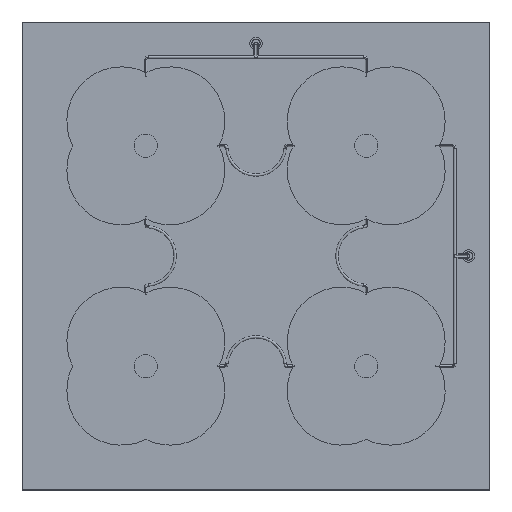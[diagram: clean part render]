
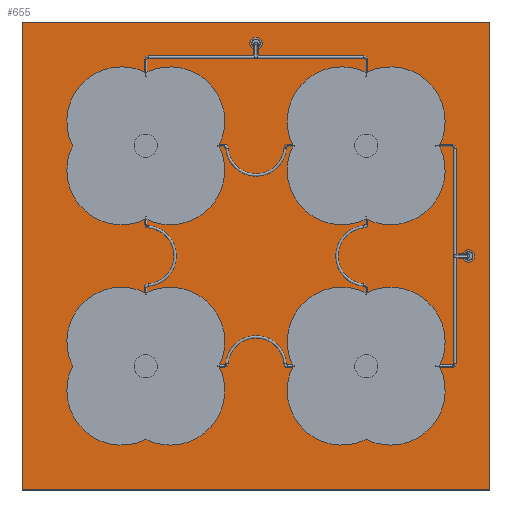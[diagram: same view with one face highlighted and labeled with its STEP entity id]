
A CAD part, top view. The second image highlights one B-rep face of the part: STEP entity #655.
In plain terms, the highlighted planar face has unit normal (0, 0, 1).
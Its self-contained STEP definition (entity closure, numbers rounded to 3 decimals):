
#655=ADVANCED_FACE('',(#1279,#1280,#1281,#1282,#1283,#1284,#1285),#1286,.T.);
#1279=FACE_BOUND('',#4151,.T.);
#1280=FACE_BOUND('',#4152,.T.);
#1281=FACE_BOUND('',#4153,.T.);
#1282=FACE_BOUND('',#4154,.T.);
#1283=FACE_BOUND('',#4155,.T.);
#1284=FACE_BOUND('',#4156,.T.);
#1285=FACE_OUTER_BOUND('',#4157,.T.);
#1286=PLANE('',#4158);
#4151=EDGE_LOOP('',(#9463,#9464));
#4152=EDGE_LOOP('',(#9465,#9466));
#4153=EDGE_LOOP('',(#9467,#9468));
#4154=EDGE_LOOP('',(#9469,#9470));
#4155=EDGE_LOOP('',(#9471,#9472));
#4156=EDGE_LOOP('',(#9473,#9474));
#4157=EDGE_LOOP('',(#9475,#9476,#9477,#9478));
#4158=AXIS2_PLACEMENT_3D('',#9479,#9480,#9481);
#9463=ORIENTED_EDGE('',*,*,#10997,.T.);
#9464=ORIENTED_EDGE('',*,*,#11154,.T.);
#9465=ORIENTED_EDGE('',*,*,#11924,.T.);
#9466=ORIENTED_EDGE('',*,*,#11925,.T.);
#9467=ORIENTED_EDGE('',*,*,#11926,.T.);
#9468=ORIENTED_EDGE('',*,*,#11927,.T.);
#9469=ORIENTED_EDGE('',*,*,#11928,.T.);
#9470=ORIENTED_EDGE('',*,*,#11929,.T.);
#9471=ORIENTED_EDGE('',*,*,#11930,.T.);
#9472=ORIENTED_EDGE('',*,*,#11931,.T.);
#9473=ORIENTED_EDGE('',*,*,#11932,.T.);
#9474=ORIENTED_EDGE('',*,*,#11174,.T.);
#9475=ORIENTED_EDGE('',*,*,#11257,.T.);
#9476=ORIENTED_EDGE('',*,*,#11933,.T.);
#9477=ORIENTED_EDGE('',*,*,#11934,.T.);
#9478=ORIENTED_EDGE('',*,*,#11702,.T.);
#9479=CARTESIAN_POINT('',(0.0,0.0,-6.0));
#9480=DIRECTION('',(0.0,0.0,1.0));
#9481=DIRECTION('',(1.0,0.0,0.0));
#10997=EDGE_CURVE('',#12326,#12323,#12327,.T.);
#11154=EDGE_CURVE('',#12323,#12326,#12618,.T.);
#11174=EDGE_CURVE('',#12652,#12649,#12653,.T.);
#11257=EDGE_CURVE('',#12802,#12807,#12809,.T.);
#11702=EDGE_CURVE('',#13625,#12802,#13629,.T.);
#11924=EDGE_CURVE('',#14025,#14026,#14027,.T.);
#11925=EDGE_CURVE('',#14026,#14025,#14028,.T.);
#11926=EDGE_CURVE('',#14029,#14030,#14031,.T.);
#11927=EDGE_CURVE('',#14030,#14029,#14032,.T.);
#11928=EDGE_CURVE('',#14033,#14034,#14035,.T.);
#11929=EDGE_CURVE('',#14034,#14033,#14036,.T.);
#11930=EDGE_CURVE('',#14037,#14038,#14039,.T.);
#11931=EDGE_CURVE('',#14038,#14037,#14040,.T.);
#11932=EDGE_CURVE('',#12649,#12652,#14041,.T.);
#11933=EDGE_CURVE('',#12807,#14042,#14043,.T.);
#11934=EDGE_CURVE('',#14042,#13625,#14044,.T.);
#12323=VERTEX_POINT('',#14606);
#12326=VERTEX_POINT('',#14610);
#12327=CIRCLE('',#14611,6.0);
#12618=CIRCLE('',#15220,6.0);
#12649=VERTEX_POINT('',#15257);
#12652=VERTEX_POINT('',#15261);
#12653=CIRCLE('',#15262,2.13);
#12802=VERTEX_POINT('',#15602);
#12807=VERTEX_POINT('',#15609);
#12809=LINE('',#15612,#15613);
#13625=VERTEX_POINT('',#17592);
#13629=LINE('',#17598,#17599);
#14025=VERTEX_POINT('',#18526);
#14026=VERTEX_POINT('',#18527);
#14027=CIRCLE('',#18528,6.0);
#14028=CIRCLE('',#18529,6.0);
#14029=VERTEX_POINT('',#18530);
#14030=VERTEX_POINT('',#18531);
#14031=CIRCLE('',#18532,6.0);
#14032=CIRCLE('',#18533,6.0);
#14033=VERTEX_POINT('',#18534);
#14034=VERTEX_POINT('',#18535);
#14035=CIRCLE('',#18536,6.0);
#14036=CIRCLE('',#18537,6.0);
#14037=VERTEX_POINT('',#18538);
#14038=VERTEX_POINT('',#18539);
#14039=CIRCLE('',#18540,2.13);
#14040=CIRCLE('',#18541,2.13);
#14041=CIRCLE('',#18542,2.13);
#14042=VERTEX_POINT('',#18543);
#14043=LINE('',#18544,#18545);
#14044=LINE('',#18546,#18547);
#14606=CARTESIAN_POINT('',(56.5,-62.5,-6.0));
#14610=CARTESIAN_POINT('',(56.5,-50.5,-6.0));
#14611=AXIS2_PLACEMENT_3D('',#19689,#19690,#19691);
#15220=AXIS2_PLACEMENT_3D('',#19827,#19828,#19829);
#15257=CARTESIAN_POINT('',(111.13,0.0,-6.0));
#15261=CARTESIAN_POINT('',(106.87,0.,-6.0));
#15262=AXIS2_PLACEMENT_3D('',#19858,#19859,#19860);
#15602=CARTESIAN_POINT('',(120.0,-120.0,-6.0));
#15609=CARTESIAN_POINT('',(120.0,120.0,-6.0));
#15612=CARTESIAN_POINT('',(120.0,0.0,-6.0));
#15613=VECTOR('',#19917,1.0);
#17592=CARTESIAN_POINT('',(-120.0,-120.0,-6.0));
#17598=CARTESIAN_POINT('',(0.0,-120.0,-6.0));
#17599=VECTOR('',#20122,1.0);
#18526=CARTESIAN_POINT('',(-50.5,-56.5,-6.0));
#18527=CARTESIAN_POINT('',(-62.5,-56.5,-6.0));
#18528=AXIS2_PLACEMENT_3D('',#20255,#20256,#20257);
#18529=AXIS2_PLACEMENT_3D('',#20258,#20259,#20260);
#18530=CARTESIAN_POINT('',(-56.5,50.5,-6.0));
#18531=CARTESIAN_POINT('',(-56.5,62.5,-6.0));
#18532=AXIS2_PLACEMENT_3D('',#20261,#20262,#20263);
#18533=AXIS2_PLACEMENT_3D('',#20264,#20265,#20266);
#18534=CARTESIAN_POINT('',(50.5,56.5,-6.0));
#18535=CARTESIAN_POINT('',(62.5,56.5,-6.0));
#18536=AXIS2_PLACEMENT_3D('',#20267,#20268,#20269);
#18537=AXIS2_PLACEMENT_3D('',#20270,#20271,#20272);
#18538=CARTESIAN_POINT('',(0.,111.13,-6.0));
#18539=CARTESIAN_POINT('',(0.,106.87,-6.0));
#18540=AXIS2_PLACEMENT_3D('',#20273,#20274,#20275);
#18541=AXIS2_PLACEMENT_3D('',#20276,#20277,#20278);
#18542=AXIS2_PLACEMENT_3D('',#20279,#20280,#20281);
#18543=CARTESIAN_POINT('',(-120.0,120.0,-6.0));
#18544=CARTESIAN_POINT('',(0.0,120.0,-6.0));
#18545=VECTOR('',#20282,1.0);
#18546=CARTESIAN_POINT('',(-120.0,0.0,-6.0));
#18547=VECTOR('',#20283,1.0);
#19689=CARTESIAN_POINT('',(56.5,-56.5,-6.0));
#19690=DIRECTION('',(-0.0,0.0,-1.0));
#19691=DIRECTION('',(0.,-1.0,0.0));
#19827=CARTESIAN_POINT('',(56.5,-56.5,-6.0));
#19828=DIRECTION('',(-0.0,0.0,-1.0));
#19829=DIRECTION('',(0.,-1.0,0.0));
#19858=CARTESIAN_POINT('',(109.0,0.0,-6.0));
#19859=DIRECTION('',(0.0,0.0,-1.0));
#19860=DIRECTION('',(1.0,0.0,0.0));
#19917=DIRECTION('',(0.0,1.0,0.0));
#20122=DIRECTION('',(1.0,0.0,0.0));
#20255=CARTESIAN_POINT('',(-56.5,-56.5,-6.0));
#20256=DIRECTION('',(-0.0,0.0,-1.0));
#20257=DIRECTION('',(-1.0,0.,0.0));
#20258=CARTESIAN_POINT('',(-56.5,-56.5,-6.0));
#20259=DIRECTION('',(-0.0,0.0,-1.0));
#20260=DIRECTION('',(-1.0,0.,0.0));
#20261=CARTESIAN_POINT('',(-56.5,56.5,-6.0));
#20262=DIRECTION('',(0.0,0.0,-1.0));
#20263=DIRECTION('',(0.,1.0,0.0));
#20264=CARTESIAN_POINT('',(-56.5,56.5,-6.0));
#20265=DIRECTION('',(0.0,0.0,-1.0));
#20266=DIRECTION('',(0.,1.0,0.0));
#20267=CARTESIAN_POINT('',(56.5,56.5,-6.0));
#20268=DIRECTION('',(0.0,0.0,-1.0));
#20269=DIRECTION('',(1.0,0.0,0.0));
#20270=CARTESIAN_POINT('',(56.5,56.5,-6.0));
#20271=DIRECTION('',(0.0,0.0,-1.0));
#20272=DIRECTION('',(1.0,0.0,0.0));
#20273=CARTESIAN_POINT('',(0.,109.0,-6.0));
#20274=DIRECTION('',(0.0,0.0,-1.0));
#20275=DIRECTION('',(0.,1.0,0.0));
#20276=CARTESIAN_POINT('',(0.,109.0,-6.0));
#20277=DIRECTION('',(0.0,0.0,-1.0));
#20278=DIRECTION('',(0.,1.0,0.0));
#20279=CARTESIAN_POINT('',(109.0,0.0,-6.0));
#20280=DIRECTION('',(0.0,0.0,-1.0));
#20281=DIRECTION('',(1.0,0.0,0.0));
#20282=DIRECTION('',(-1.0,0.0,0.0));
#20283=DIRECTION('',(0.0,-1.0,0.0));
